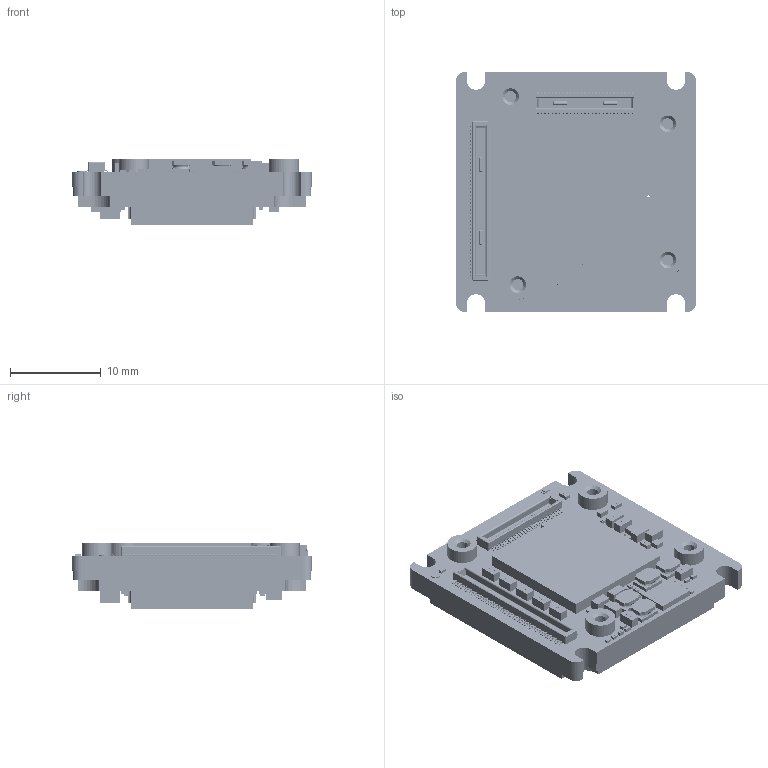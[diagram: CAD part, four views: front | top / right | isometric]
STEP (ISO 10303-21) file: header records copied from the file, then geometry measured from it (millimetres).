
FILE_DESCRIPTION (( 'STEP AP214' ), '1' );
FILE_NAME ('Alvium-Extended-Bare-Board-IMX14x14.STEP', '2022-11-28T13:28:05', ( '' ), ( '' ), 'SwSTEP 2.0', 'SolidWorks 2021', '' );
FILE_SCHEMA (( 'AUTOMOTIVE_DESIGN' ));
Length unit declared in the file: millimetre
Products named in the file (1): Alvium-Extended-Bare-Board-IMX14x14
Bounding box: 26.4 x 26.4 x 7.34 mm (x, y, z)
Surface area: 4218.8 mm2 (no closed solid volume)
Topology: 0 solids, 165 shells, 10531 faces, 27009 edges, 17774 vertices
Faces by surface type: plane 5184, bspline 4269, cylinder 1014, torus 40, cone 24
Entity records: 677185 total; most frequent: CARTESIAN_POINT 332800, ORIENTED_EDGE 54002, DIRECTION 32977, EDGE_CURVE 27001, VERTEX_POINT 17774, VECTOR 16283, LINE 16283, EDGE_LOOP 11513
